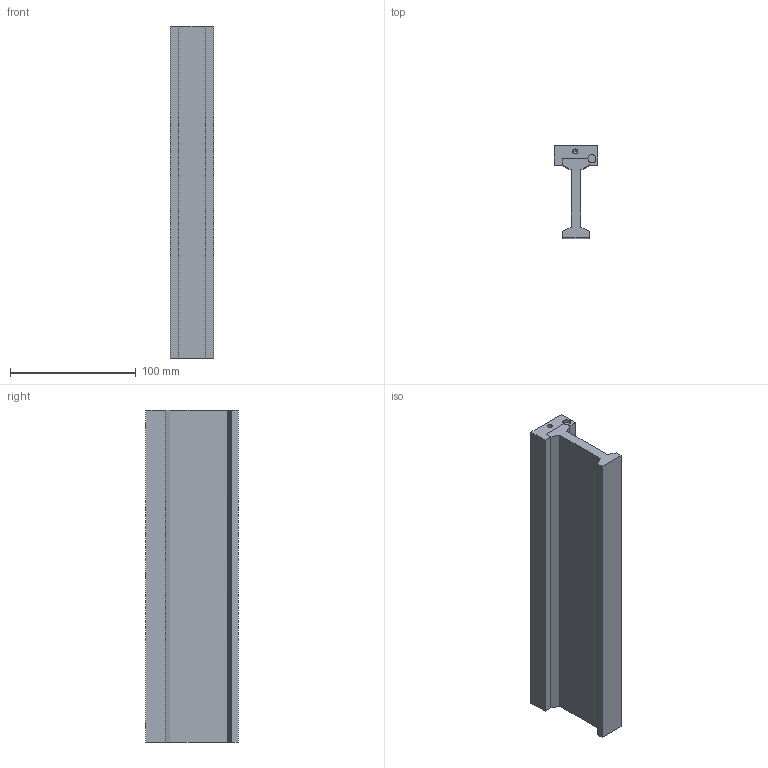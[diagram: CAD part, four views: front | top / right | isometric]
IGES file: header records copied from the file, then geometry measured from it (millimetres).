
Global section: file name: No Iges File Name specified; native system: AutoDesk Inventor R11.0; preprocessor: AutoDesk Inventor Iges Exporter R11.0; author: No Author specified; organization: No Organization specified; date: 20080205.101053; units: inch
Bounding box: 34.29 x 73.66 x 264.16 mm (x, y, z)
Volume: 293215.7 mm3; surface area: 64405.4 mm2
Topology: 1 solids, 1 shells, 49 faces, 125 edges, 71 vertices
Faces by surface type: bspline 28, plane 19, revolution 2
